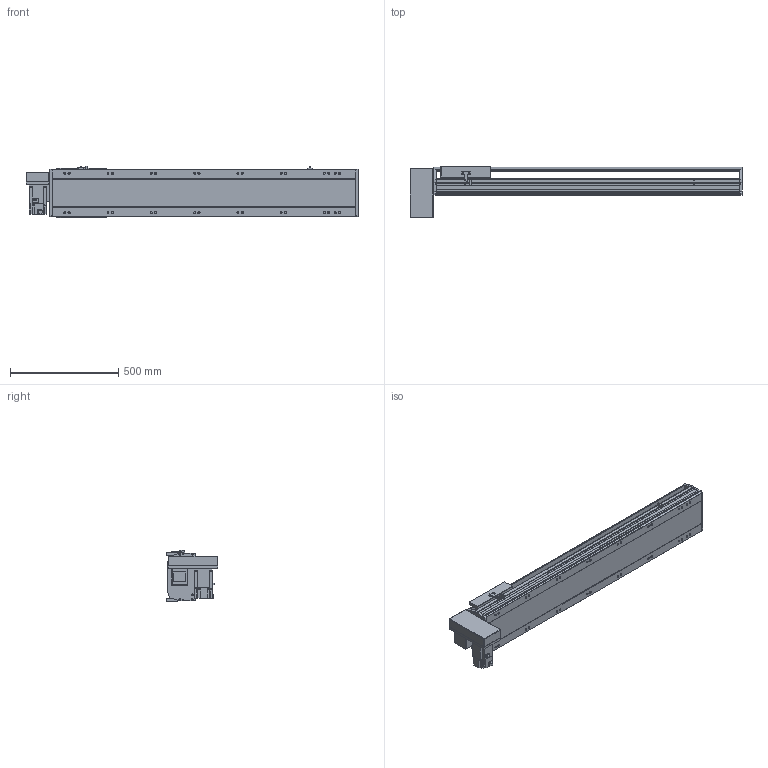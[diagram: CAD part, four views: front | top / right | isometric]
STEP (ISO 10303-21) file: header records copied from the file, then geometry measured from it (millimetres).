
FILE_DESCRIPTION(/* description */ ('STEP AP214'),/* implementation_level */ '2;1');
FILE_NAME(/* name */ 'PBS220-P40-S1050-RD-T75-C1-N(0)',/* time_stamp */ '2022-06-13T02:41:51+02:00',/* author */ ('License CC BY-ND 4.0'),/* organization */ ('CADENAS'),/* preprocessor_version */ 'ST-DEVELOPER v18.102',/* originating_system */ 'PARTsolutions',/* authorisation */ ' ');
FILE_SCHEMA (('AUTOMOTIVE_DESIGN {1 0 10303 214 3 1 1}'));
Length unit declared in the file: millimetre
Products named in the file (7): PBS220-P40-S1050-RD-T75-C1-N(0); PBS220_sensor; PBS220_plant; PBS220_sliser; T75-p1; PBS220T-RD_motors; PBS220-S1050()_body
Assembly tree (8 placements, depth 2):
  PBS220-P40-S1050-RD-T75-C1-N(0)
    PBS220_sensor  x3
    PBS220_plant
    PBS220_sliser
    T75-p1
    PBS220T-RD_motors
    PBS220-S1050()_body
Bounding box: 1534 x 239 x 238.5 mm (x, y, z)
Volume: 22125657.5 mm3; surface area: 2159215.1 mm2
Topology: 8 solids, 8 shells, 914 faces, 2396 edges, 1558 vertices
Faces by surface type: plane 598, cylinder 276, cone 40
Full cylindrical faces by diameter (mm): 2.013 x4, 4.5 x14, 4.917 x4, 6 x7, 6.647 x8, 8 x10, 8.376 x16, 8.5 x16, 10 x6, 14 x16, 38 x2, 40 x1, 70 x1
Entity records: 25629 total; most frequent: CARTESIAN_POINT 4492, DIRECTION 4455, ORIENTED_EDGE 4106, EDGE_CURVE 2053, AXIS2_PLACEMENT_3D 1555, VERTEX_POINT 1416, LINE 1345, VECTOR 1345
